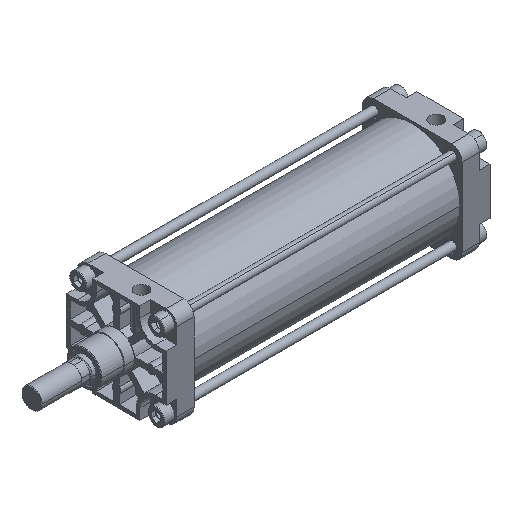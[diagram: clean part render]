
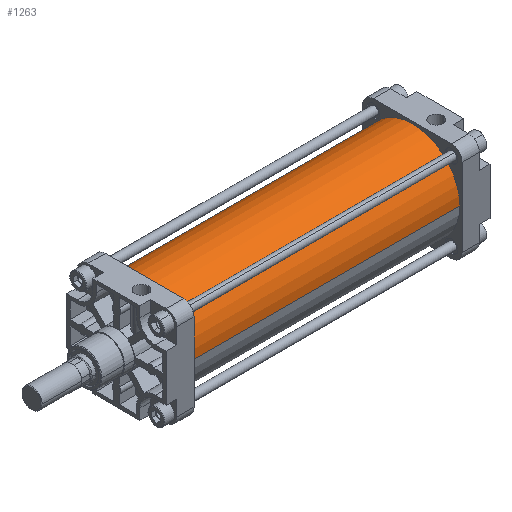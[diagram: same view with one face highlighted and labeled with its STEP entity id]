
A CAD part, isometric view. The second image highlights one B-rep face of the part: STEP entity #1263.
In plain terms, the highlighted cylindrical face has radius 85 mm (diameter 170 mm), a partial arc.
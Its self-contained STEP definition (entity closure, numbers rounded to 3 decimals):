
#853=CARTESIAN_POINT('Axis2P3D Location',(0.,0.,0.)) ;
#857=CARTESIAN_POINT('Vertex',(0.,85.,0.)) ;
#859=CARTESIAN_POINT('Vertex',(0.,-85.,0.)) ;
#1233=CARTESIAN_POINT('Axis2P3D Location',(240.,0.,0.)) ;
#1238=CARTESIAN_POINT('Line Origine',(240.,85.,0.)) ;
#1242=CARTESIAN_POINT('Vertex',(480.,85.,0.)) ;
#1245=CARTESIAN_POINT('Line Origine',(240.,-85.,0.)) ;
#1249=CARTESIAN_POINT('Vertex',(480.,-85.,0.)) ;
#1252=CARTESIAN_POINT('Axis2P3D Location',(480.,0.,0.)) ;
#854=DIRECTION('Axis2P3D Direction',(1.,0.,0.)) ;
#1234=DIRECTION('Axis2P3D Direction',(1.,0.,0.)) ;
#1235=DIRECTION('Axis2P3D XDirection',(0.,1.,0.)) ;
#1239=DIRECTION('Vector Direction',(1.,0.,0.)) ;
#1246=DIRECTION('Vector Direction',(1.,0.,0.)) ;
#1253=DIRECTION('Axis2P3D Direction',(1.,0.,0.)) ;
#855=AXIS2_PLACEMENT_3D('Circle Axis2P3D',#853,#854,$) ;
#1236=AXIS2_PLACEMENT_3D('Cylinder Axis2P3D',#1233,#1234,#1235) ;
#1254=AXIS2_PLACEMENT_3D('Circle Axis2P3D',#1252,#1253,$) ;
#1258=ORIENTED_EDGE('',*,*,#1244,.F.) ;
#1259=ORIENTED_EDGE('',*,*,#861,.T.) ;
#1260=ORIENTED_EDGE('',*,*,#1251,.T.) ;
#1261=ORIENTED_EDGE('',*,*,#1256,.F.) ;
#1240=VECTOR('Line Direction',#1239,1.) ;
#1247=VECTOR('Line Direction',#1246,1.) ;
#1263=ADVANCED_FACE('PartBody',(#1262),#1237,.T.) ;
#856=CIRCLE('generated circle',#855,85.) ;
#1255=CIRCLE('generated circle',#1254,85.) ;
#1237=CYLINDRICAL_SURFACE('generated cylinder',#1236,85.) ;
#861=EDGE_CURVE('',#858,#860,#856,.T.) ;
#1244=EDGE_CURVE('',#858,#1243,#1241,.T.) ;
#1251=EDGE_CURVE('',#860,#1250,#1248,.T.) ;
#1256=EDGE_CURVE('',#1243,#1250,#1255,.T.) ;
#1257=EDGE_LOOP('',(#1258,#1259,#1260,#1261)) ;
#1262=FACE_OUTER_BOUND('',#1257,.T.) ;
#1241=LINE('Line',#1238,#1240) ;
#1248=LINE('Line',#1245,#1247) ;
#858=VERTEX_POINT('',#857) ;
#860=VERTEX_POINT('',#859) ;
#1243=VERTEX_POINT('',#1242) ;
#1250=VERTEX_POINT('',#1249) ;
